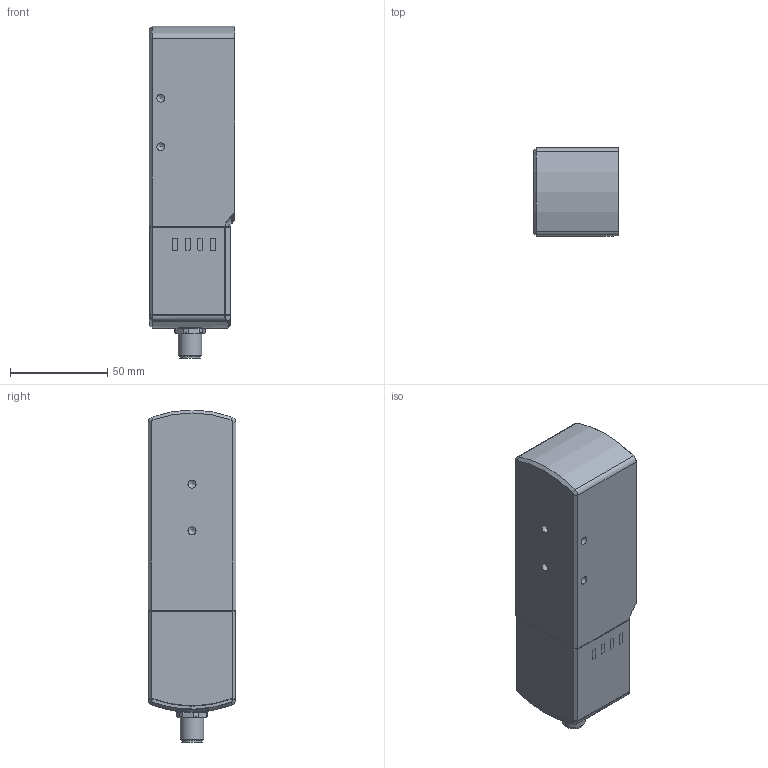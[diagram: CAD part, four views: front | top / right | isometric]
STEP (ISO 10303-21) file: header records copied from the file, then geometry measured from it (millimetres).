
FILE_DESCRIPTION(/* description */ (''),/* implementation_level */ '2;1');
FILE_NAME(/* name */ '2031879_B_PSEN sl2-xLy-x switch.stp',/* time_stamp */ '2024-01-25T12:05:20+01:00',/* author */ ('EW-PS'),/* organization */ (''),/* preprocessor_version */ 'ST-DEVELOPER v20',/* originating_system */ 'Autodesk Inventor 2024',/* authorisation */ '');
FILE_SCHEMA (('AUTOMOTIVE_DESIGN { 1 0 10303 214 3 1 1 }'));
Length unit declared in the file: millimetre
Products named in the file (1): 2031879
Bounding box: 44 x 45 x 170.35 mm (x, y, z)
Volume: 293997.6 mm3; surface area: 31406.6 mm2
Topology: 1 solids, 1 shells, 248 faces, 663 edges, 429 vertices
Faces by surface type: plane 110, bspline 46, cone 42, cylinder 40, torus 7, sphere 3
Full cylindrical faces by diameter (mm): 4.134 x6, 8.3 x1, 10.6 x1, 12 x1
Entity records: 8788 total; most frequent: CARTESIAN_POINT 2802, ORIENTED_EDGE 1298, DIRECTION 1151, EDGE_CURVE 649, VERTEX_POINT 429, AXIS2_PLACEMENT_3D 415, LINE 321, VECTOR 321
